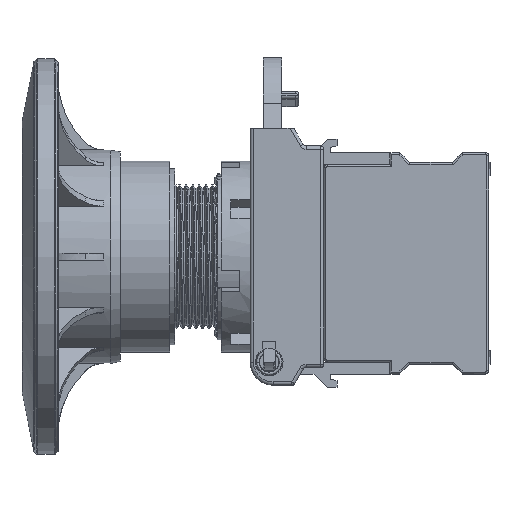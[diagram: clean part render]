
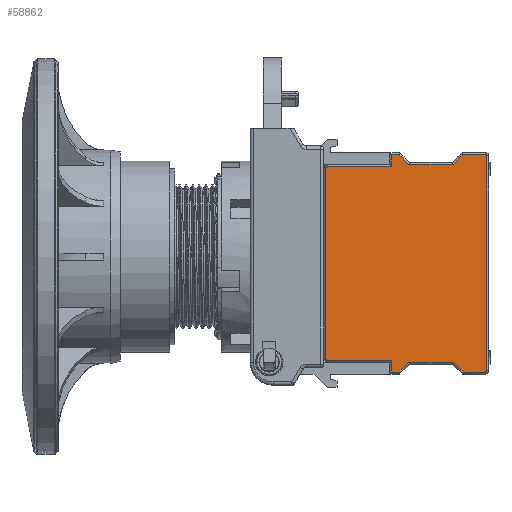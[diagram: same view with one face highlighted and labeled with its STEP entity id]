
A CAD part, left-side view. The second image highlights one B-rep face of the part: STEP entity #58862.
In plain terms, the highlighted planar face has unit normal (-1, 0, 0).
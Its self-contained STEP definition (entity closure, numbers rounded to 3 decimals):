
#4007=LINE('',#87302,#8468);
#4008=LINE('',#87307,#8469);
#4011=LINE('',#87314,#8472);
#4013=LINE('',#87325,#8474);
#4014=LINE('',#87330,#8475);
#4016=LINE('',#87335,#8477);
#4018=LINE('',#87347,#8479);
#4019=LINE('',#87352,#8480);
#4022=LINE('',#87359,#8483);
#4023=LINE('',#87364,#8484);
#4025=LINE('',#87375,#8486);
#4027=LINE('',#87380,#8488);
#4028=LINE('',#87384,#8489);
#4030=LINE('',#87395,#8491);
#4032=LINE('',#87401,#8493);
#4034=LINE('',#87404,#8495);
#8468=VECTOR('',#68929,1000.);
#8469=VECTOR('',#68934,1000.);
#8472=VECTOR('',#68941,1000.);
#8474=VECTOR('',#68955,1000.);
#8475=VECTOR('',#68960,1000.);
#8477=VECTOR('',#68966,1000.);
#8479=VECTOR('',#68980,1000.);
#8480=VECTOR('',#68985,1000.);
#8483=VECTOR('',#68992,1000.);
#8484=VECTOR('',#68997,1000.);
#8486=VECTOR('',#69011,1000.);
#8488=VECTOR('',#69017,1000.);
#8489=VECTOR('',#69022,1000.);
#8491=VECTOR('',#69036,1000.);
#8493=VECTOR('',#69042,1000.);
#8495=VECTOR('',#69046,1000.);
#16940=ORIENTED_EDGE('',*,*,#26244,.T.);
#16941=ORIENTED_EDGE('',*,*,#26238,.T.);
#16942=ORIENTED_EDGE('',*,*,#26240,.T.);
#16943=ORIENTED_EDGE('',*,*,#26246,.T.);
#16944=ORIENTED_EDGE('',*,*,#26252,.T.);
#16945=ORIENTED_EDGE('',*,*,#26257,.T.);
#16946=ORIENTED_EDGE('',*,*,#26263,.T.);
#16947=ORIENTED_EDGE('',*,*,#26269,.T.);
#16948=ORIENTED_EDGE('',*,*,#26275,.T.);
#16949=ORIENTED_EDGE('',*,*,#26280,.T.);
#16950=ORIENTED_EDGE('',*,*,#26286,.T.);
#16951=ORIENTED_EDGE('',*,*,#26291,.T.);
#16952=ORIENTED_EDGE('',*,*,#26289,.T.);
#16953=ORIENTED_EDGE('',*,*,#26284,.T.);
#16954=ORIENTED_EDGE('',*,*,#26278,.T.);
#16955=ORIENTED_EDGE('',*,*,#26273,.T.);
#16956=ORIENTED_EDGE('',*,*,#26267,.T.);
#16957=ORIENTED_EDGE('',*,*,#26261,.T.);
#16958=ORIENTED_EDGE('',*,*,#26255,.T.);
#16959=ORIENTED_EDGE('',*,*,#26250,.T.);
#26238=EDGE_CURVE('',#31419,#31422,#4007,.T.);
#26240=EDGE_CURVE('',#31422,#31424,#4008,.T.);
#26244=EDGE_CURVE('',#31425,#31419,#4011,.T.);
#26246=EDGE_CURVE('',#31424,#31428,#33588,.T.);
#26250=EDGE_CURVE('',#31429,#31425,#4013,.T.);
#26252=EDGE_CURVE('',#31428,#31431,#4014,.T.);
#26255=EDGE_CURVE('',#31432,#31429,#4016,.T.);
#26257=EDGE_CURVE('',#31431,#31434,#33592,.T.);
#26261=EDGE_CURVE('',#31435,#31432,#4018,.T.);
#26263=EDGE_CURVE('',#31434,#31438,#4019,.T.);
#26267=EDGE_CURVE('',#31439,#31435,#4022,.T.);
#26269=EDGE_CURVE('',#31438,#31442,#4023,.T.);
#26273=EDGE_CURVE('',#31443,#31439,#33597,.T.);
#26275=EDGE_CURVE('',#31442,#31445,#4025,.T.);
#26278=EDGE_CURVE('',#31446,#31443,#4027,.T.);
#26280=EDGE_CURVE('',#31445,#31447,#4028,.T.);
#26284=EDGE_CURVE('',#31448,#31446,#33601,.T.);
#26286=EDGE_CURVE('',#31447,#31450,#4030,.T.);
#26289=EDGE_CURVE('',#31451,#31448,#4032,.T.);
#26291=EDGE_CURVE('',#31450,#31451,#4034,.T.);
#31419=VERTEX_POINT('',#87296);
#31422=VERTEX_POINT('',#87301);
#31424=VERTEX_POINT('',#87306);
#31425=VERTEX_POINT('',#87311);
#31428=VERTEX_POINT('',#87318);
#31429=VERTEX_POINT('',#87323);
#31431=VERTEX_POINT('',#87329);
#31432=VERTEX_POINT('',#87334);
#31434=VERTEX_POINT('',#87339);
#31435=VERTEX_POINT('',#87344);
#31438=VERTEX_POINT('',#87351);
#31439=VERTEX_POINT('',#87356);
#31442=VERTEX_POINT('',#87363);
#31443=VERTEX_POINT('',#87368);
#31445=VERTEX_POINT('',#87374);
#31446=VERTEX_POINT('',#87379);
#31447=VERTEX_POINT('',#87383);
#31448=VERTEX_POINT('',#87388);
#31450=VERTEX_POINT('',#87394);
#31451=VERTEX_POINT('',#87398);
#33588=CIRCLE('',#61614,0.2);
#33592=CIRCLE('',#61624,0.2);
#33597=CIRCLE('',#61637,0.2);
#33601=CIRCLE('',#61647,0.2);
#35484=EDGE_LOOP('',(#16940,#16941,#16942,#16943,#16944,#16945,#16946,#16947,
#16948,#16949,#16950,#16951,#16952,#16953,#16954,#16955,#16956,#16957,#16958,
#16959));
#38054=FACE_BOUND('',#35484,.T.);
#40163=PLANE('',#61738);
#58862=ADVANCED_FACE('',(#38054),#40163,.T.);
#61614=AXIS2_PLACEMENT_3D('',#87319,#68946,#68947);
#61624=AXIS2_PLACEMENT_3D('',#87340,#68971,#68972);
#61637=AXIS2_PLACEMENT_3D('',#87370,#69005,#69006);
#61647=AXIS2_PLACEMENT_3D('',#87391,#69030,#69031);
#61738=AXIS2_PLACEMENT_3D('',#87805,#69414,#69415);
#68929=DIRECTION('',(0.,0.,-1.));
#68934=DIRECTION('',(0.,1.,0.));
#68941=DIRECTION('',(0.,1.,0.));
#68946=DIRECTION('',(-1.,0.,0.));
#68947=DIRECTION('',(0.,1.,0.));
#68955=DIRECTION('',(0.,0.707,0.707));
#68960=DIRECTION('',(0.,0.,-1.));
#68966=DIRECTION('',(0.,1.,0.));
#68971=DIRECTION('',(-1.,0.,0.));
#68972=DIRECTION('',(0.,1.,0.));
#68980=DIRECTION('',(0.,0.707,-0.707));
#68985=DIRECTION('',(0.,-1.,0.));
#68992=DIRECTION('',(0.,1.,0.));
#68997=DIRECTION('',(0.,0.,-1.));
#69005=DIRECTION('',(-1.,0.,0.));
#69006=DIRECTION('',(0.,1.,0.));
#69011=DIRECTION('',(0.,-1.,0.));
#69017=DIRECTION('',(0.,0.,1.));
#69022=DIRECTION('',(0.,-0.707,0.707));
#69030=DIRECTION('',(-1.,0.,0.));
#69031=DIRECTION('',(0.,1.,0.));
#69036=DIRECTION('',(0.,-1.,0.));
#69042=DIRECTION('',(0.,-1.,0.));
#69046=DIRECTION('',(0.,-0.707,-0.707));
#69414=DIRECTION('',(-1.,0.,0.));
#69415=DIRECTION('',(0.,1.,0.));
#87296=CARTESIAN_POINT('',(-15.,-44.8,17.5));
#87301=CARTESIAN_POINT('',(-15.,-44.8,15.7));
#87302=CARTESIAN_POINT('',(-15.,-44.8,16.));
#87306=CARTESIAN_POINT('',(-15.,-35.,15.7));
#87307=CARTESIAN_POINT('',(-15.,-47.,15.7));
#87311=CARTESIAN_POINT('',(-15.,-45.876,17.5));
#87314=CARTESIAN_POINT('',(-15.,-44.5,17.5));
#87318=CARTESIAN_POINT('',(-15.,-34.8,15.5));
#87319=CARTESIAN_POINT('',(-15.,-35.,15.5));
#87323=CARTESIAN_POINT('',(-15.,-47.376,16.));
#87325=CARTESIAN_POINT('',(-15.,-58.513,4.863));
#87329=CARTESIAN_POINT('',(-15.,-34.8,-13.5));
#87330=CARTESIAN_POINT('',(-15.,-34.8,-6.65));
#87334=CARTESIAN_POINT('',(-15.,-54.124,16.));
#87335=CARTESIAN_POINT('',(-15.,-47.,16.));
#87339=CARTESIAN_POINT('',(-15.,-35.,-13.7));
#87340=CARTESIAN_POINT('',(-15.,-35.,-13.5));
#87344=CARTESIAN_POINT('',(-15.,-55.624,17.5));
#87347=CARTESIAN_POINT('',(-15.,-39.237,1.113));
#87351=CARTESIAN_POINT('',(-15.,-44.8,-13.7));
#87352=CARTESIAN_POINT('',(-15.,-47.,-13.7));
#87356=CARTESIAN_POINT('',(-15.,-59.,17.5));
#87359=CARTESIAN_POINT('',(-15.,-47.,17.5));
#87363=CARTESIAN_POINT('',(-15.,-44.8,-15.5));
#87364=CARTESIAN_POINT('',(-15.,-44.8,-15.8));
#87368=CARTESIAN_POINT('',(-15.,-59.2,17.3));
#87370=CARTESIAN_POINT('',(-15.,-59.,17.3));
#87374=CARTESIAN_POINT('',(-15.,-45.876,-15.5));
#87375=CARTESIAN_POINT('',(-15.,-46.,-15.5));
#87379=CARTESIAN_POINT('',(-15.,-59.2,-15.3));
#87380=CARTESIAN_POINT('',(-15.,-59.2,-6.65));
#87383=CARTESIAN_POINT('',(-15.,-47.376,-14.));
#87384=CARTESIAN_POINT('',(-15.,-50.863,-10.513));
#87388=CARTESIAN_POINT('',(-15.,-59.,-15.5));
#87391=CARTESIAN_POINT('',(-15.,-59.,-15.3));
#87394=CARTESIAN_POINT('',(-15.,-54.124,-14.));
#87395=CARTESIAN_POINT('',(-15.,-47.,-14.));
#87398=CARTESIAN_POINT('',(-15.,-55.624,-15.5));
#87401=CARTESIAN_POINT('',(-15.,-47.,-15.5));
#87404=CARTESIAN_POINT('',(-15.,-46.887,-6.763));
#87805=CARTESIAN_POINT('',(-15.,-47.,-6.65));
